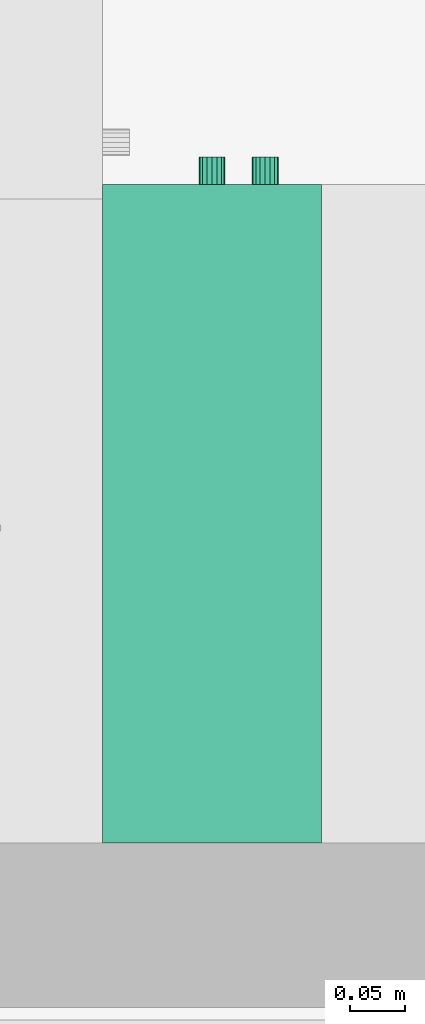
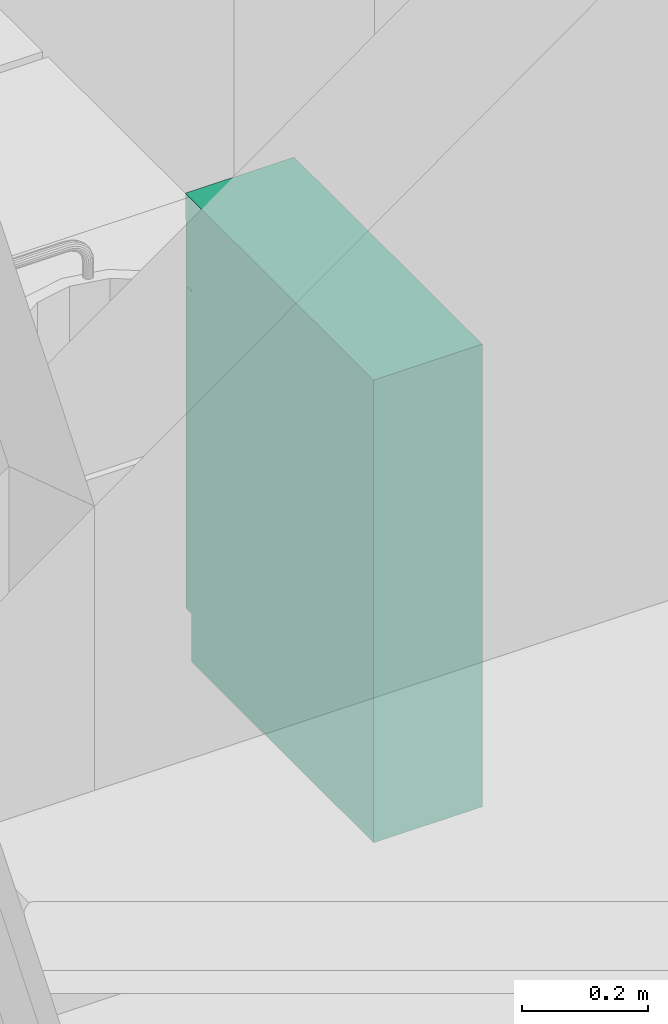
# One storey, part 45 of 172: 1 flow terminal.
"""IFC2X3 building model written with IfcOpenShell, lengths in millimetres."""

from ifc_helpers import new_model, entity, si_unit, converted_unit, money_unit, direction, frame, origin_with_axes, place, context, subcontext, project, spatial, faceted_brep, source, transform, mapped, material, material_list, type_object, element, save


model = new_model("IFC2X3")

# Units and contexts
model_context = context("Model", 3, precision=1e-05, world=origin_with_axes(), true_north=direction((0.0, 1.0)))
body_context = subcontext(model_context, "Body", "Model", "MODEL_VIEW")
ifc_project = project(units=[si_unit("LENGTHUNIT", "METRE", prefix="MILLI"), si_unit("AREAUNIT", "SQUARE_METRE"), si_unit("VOLUMEUNIT", "CUBIC_METRE"), converted_unit("PLANEANGLEUNIT", "DEGREE", entity("IfcPlaneAngleMeasure", 0.0174532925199), si_unit("PLANEANGLEUNIT", "RADIAN"), dimensions=[0, 0, 0, 0, 0, 0, 0]), si_unit("SOLIDANGLEUNIT", "STERADIAN"), money_unit("USD"), converted_unit("TIMEUNIT", "Year", entity("IfcTimeMeasure", 31556926.0), si_unit("TIMEUNIT", "SECOND"), dimensions=[0, 0, 0, 0, 0, 0, 0]), si_unit("MASSUNIT", "GRAM"), si_unit("THERMODYNAMICTEMPERATUREUNIT", "DEGREE_CELSIUS"), si_unit("LUMINOUSINTENSITYUNIT", "LUMEN")], contexts=[model_context])

# Site, building, storey
site_placement = place(None, origin_with_axes())
site = spatial("IfcSite", under=ifc_project, at=site_placement, Name="Site", CompositionType="ELEMENT")
building_placement = place(site_placement, origin_with_axes())
building = spatial("IfcBuilding", under=site, at=building_placement, Name="Building", CompositionType="ELEMENT")
storey_placement = place(building_placement, frame((0.0, 0.0, 3200.0), z_axis=(0.0, 0.0, 1.0), x_axis=(1.0, 0.0, 0.0)))
storey = spatial("IfcBuildingStorey", under=building, at=storey_placement, Name="3KORRUS", CompositionType="ELEMENT", Elevation=3200.0)

# Flow terminal
ifc_material = material(Name="Background")
ifc_material_list = material_list([ifc_material])
sanitary_terminal_type = type_object("IfcSanitaryTerminalType", Name="Cabinet Base Single Door 19", PredefinedType="SINK")
shared_shape = source(origin_with_axes(), body_context, "Body", "Brep", [
    faceted_brep([(-20.0, 20.0, 710.0), (-20.0, 20.0, 730.0), (-180.0, 20.0, 730.0), (-180.0, 20.0, 710.0), (-20.0, 580.0, 710.0), (-20.0, 580.0, 730.0), (-180.0, 580.0, 730.0), (-180.0, 580.0, 710.0)], [[[0, 1, 2, 3]], [[4, 5, 1, 0]], [[1, 5, 6, 2]], [[3, 2, 6, 7]], [[0, 3, 7, 4]], [[7, 6, 5, 4]]]),
    faceted_brep([(0.0, 20.0, 0.0), (0.0, 20.0, 90.0), (-200.0, 20.0, 90.0), (-200.0, 20.0, 0.0), (0.0, 600.0, 0.0), (0.0, 600.0, 90.0), (-200.0, 600.0, 90.0), (-200.0, 600.0, 0.0)], [[[0, 1, 2, 3]], [[4, 5, 1, 0]], [[1, 5, 6, 2]], [[3, 2, 6, 7]], [[0, 3, 7, 4]], [[7, 6, 5, 4]]]),
    faceted_brep([(0.0, 20.0, 830.0), (0.0, 20.0, 850.0), (-20.0, 20.0, 850.0), (-20.0, 20.0, 830.0), (0.0, 600.0, 830.0), (0.0, 600.0, 850.0), (-20.0, 600.0, 850.0), (-180.0, 600.0, 850.0), (-200.0, 600.0, 850.0), (-200.0, 20.0, 850.0), (-180.0, 20.0, 850.0), (-180.0, 20.0, 830.0), (-200.0, 20.0, 830.0), (-200.0, 600.0, 830.0), (-180.0, 600.0, 830.0), (-20.0, 600.0, 830.0)], [[[0, 1, 2, 3]], [[4, 5, 1, 0]], [[1, 5, 6, 7, 8, 9, 10, 2]], [[3, 2, 10, 11]], [[0, 3, 11, 12, 13, 14, 15, 4]], [[15, 6, 5, 4]], [[14, 7, 6, 15]], [[13, 8, 7, 14]], [[12, 9, 8, 13]], [[11, 10, 9, 12]]]),
    faceted_brep([(0.0, 20.0, 90.0), (0.0, 20.0, 110.0), (-20.0, 20.0, 110.0), (-20.0, 20.0, 90.0), (0.0, 600.0, 90.0), (0.0, 600.0, 110.0), (-20.0, 600.0, 110.0), (-180.0, 600.0, 110.0), (-200.0, 600.0, 110.0), (-200.0, 20.0, 110.0), (-180.0, 20.0, 110.0), (-180.0, 20.0, 90.0), (-200.0, 20.0, 90.0), (-200.0, 600.0, 90.0), (-180.0, 600.0, 90.0), (-20.0, 600.0, 90.0)], [[[0, 1, 2, 3]], [[4, 5, 1, 0]], [[1, 5, 6, 7, 8, 9, 10, 2]], [[3, 2, 10, 11]], [[0, 3, 11, 12, 13, 14, 15, 4]], [[15, 6, 5, 4]], [[14, 7, 6, 15]], [[13, 8, 7, 14]], [[12, 9, 8, 13]], [[11, 10, 9, 12]]]),
    faceted_brep([(0.0, 20.0, 110.0), (0.0, 20.0, 830.0), (-20.0, 20.0, 830.0), (-20.0, 20.0, 110.0), (0.0, 600.0, 110.0), (0.0, 600.0, 830.0), (-200.0, 600.0, 830.0), (-200.0, 20.0, 830.0), (-180.0, 20.0, 830.0), (-180.0, 580.0, 830.0), (-20.0, 580.0, 830.0), (-20.0, 580.0, 110.0), (-180.0, 580.0, 110.0), (-180.0, 20.0, 110.0), (-200.0, 20.0, 110.0), (-200.0, 600.0, 110.0)], [[[0, 1, 2, 3]], [[4, 5, 1, 0]], [[1, 5, 6, 7, 8, 9, 10, 2]], [[3, 2, 10, 11]], [[0, 3, 11, 12, 13, 14, 15, 4]], [[15, 6, 5, 4]], [[14, 7, 6, 15]], [[13, 8, 7, 14]], [[12, 9, 8, 13]], [[11, 10, 9, 12]]]),
    faceted_brep([(-180.0, 20.0, 385.0), (-180.0, 20.0, 405.0), (-180.0, 580.0, 405.0), (-180.0, 580.0, 385.0), (-20.0, 20.0, 385.0), (-20.0, 20.0, 405.0), (-20.0, 580.0, 405.0), (-20.0, 580.0, 385.0)], [[[0, 1, 2, 3]], [[4, 5, 1, 0]], [[1, 5, 6, 2]], [[3, 2, 6, 7]], [[0, 3, 7, 4]], [[7, 6, 5, 4]]]),
    faceted_brep([(0.0, 0.0, 850.0), (0.0, 0.0, 900.0), (-200.0, 0.0, 900.0), (-200.0, 0.0, 850.0), (0.0, 600.0, 850.0), (0.0, 600.0, 900.0), (-200.0, 600.0, 900.0), (-200.0, 600.0, 850.0)], [[[0, 1, 2, 3]], [[4, 5, 1, 0]], [[1, 5, 6, 2]], [[3, 2, 6, 7]], [[0, 3, 7, 4]], [[7, 6, 5, 4]]]),
    faceted_brep([(-1.5, 20.0, 721.5), (-1.5, 0.0, 721.5), (-198.5, 0.0, 721.5), (-198.5, 20.0, 721.5), (-1.5, 20.0, 848.5), (-1.5, 0.0, 848.5), (-198.5, 0.0, 848.5), (-198.5, 20.0, 848.5)], [[[0, 1, 2, 3]], [[4, 5, 1, 0]], [[1, 5, 6, 2]], [[3, 2, 6, 7]], [[0, 3, 7, 4]], [[7, 6, 5, 4]]]),
    faceted_brep([(-95.408, 0.0, 773.913), (-100.0, 0.0, 773.0), (-104.592, 0.0, 773.913), (-108.485, 0.0, 776.515), (-111.087, 0.0, 780.408), (-112.0, 0.0, 785.0), (-111.087, 0.0, 789.592), (-108.485, 0.0, 793.485), (-104.592, 0.0, 796.087), (-100.0, 0.0, 797.0), (-95.408, 0.0, 796.087), (-91.515, 0.0, 793.485), (-88.913, 0.0, 789.592), (-88.0, 0.0, 785.0), (-88.913, 0.0, 780.408), (-91.515, 0.0, 776.515), (-95.408, -25.0, 773.913), (-100.0, -25.0, 773.0), (-104.592, -25.0, 773.913), (-108.485, -25.0, 776.515), (-111.087, -25.0, 780.408), (-112.0, -25.0, 785.0), (-111.087, -25.0, 789.592), (-108.485, -25.0, 793.485), (-104.592, -25.0, 796.087), (-100.0, -25.0, 797.0), (-95.408, -25.0, 796.087), (-91.515, -25.0, 793.485), (-88.913, -25.0, 789.592), (-88.0, -25.0, 785.0), (-88.913, -25.0, 780.408), (-91.515, -25.0, 776.515)], [[[0, 1, 2, 3, 4, 5, 6, 7, 8, 9, 10, 11, 12, 13, 14, 15]], [[0, 16, 17, 1]], [[1, 17, 18, 2]], [[2, 18, 19, 3]], [[3, 19, 20, 4]], [[4, 20, 21, 5]], [[5, 21, 22, 6]], [[6, 22, 23, 7]], [[7, 23, 24, 8]], [[8, 24, 25, 9]], [[9, 25, 26, 10]], [[10, 26, 27, 11]], [[11, 27, 28, 12]], [[12, 28, 29, 13]], [[13, 29, 30, 14]], [[14, 30, 31, 15]], [[15, 31, 16, 0]], [[16, 31, 30, 29, 28, 27, 26, 25, 24, 23, 22, 21, 20, 19, 18, 17]]]),
    faceted_brep([(-1.5, 20.0, 91.5), (-1.5, 0.0, 91.5), (-198.5, 0.0, 91.5), (-198.5, 20.0, 91.5), (-1.5, 20.0, 718.5), (-1.5, 0.0, 718.5), (-198.5, 0.0, 718.5), (-198.5, 20.0, 718.5)], [[[0, 1, 2, 3]], [[4, 5, 1, 0]], [[1, 5, 6, 2]], [[3, 2, 6, 7]], [[0, 3, 7, 4]], [[7, 6, 5, 4]]]),
    faceted_brep([(-159.587, 0.0, 636.908), (-160.5, 0.0, 641.5), (-159.587, 0.0, 646.092), (-156.985, 0.0, 649.985), (-153.092, 0.0, 652.587), (-148.5, 0.0, 653.5), (-143.908, 0.0, 652.587), (-140.015, 0.0, 649.985), (-137.413, 0.0, 646.092), (-136.5, 0.0, 641.5), (-137.413, 0.0, 636.908), (-140.015, 0.0, 633.015), (-143.908, 0.0, 630.413), (-148.5, 0.0, 629.5), (-153.092, 0.0, 630.413), (-156.985, 0.0, 633.015), (-159.587, -25.0, 636.908), (-160.5, -25.0, 641.5), (-159.587, -25.0, 646.092), (-156.985, -25.0, 649.985), (-153.092, -25.0, 652.587), (-148.5, -25.0, 653.5), (-143.908, -25.0, 652.587), (-140.015, -25.0, 649.985), (-137.413, -25.0, 646.092), (-136.5, -25.0, 641.5), (-137.413, -25.0, 636.908), (-140.015, -25.0, 633.015), (-143.908, -25.0, 630.413), (-148.5, -25.0, 629.5), (-153.092, -25.0, 630.413), (-156.985, -25.0, 633.015)], [[[0, 1, 2, 3, 4, 5, 6, 7, 8, 9, 10, 11, 12, 13, 14, 15]], [[0, 16, 17, 1]], [[1, 17, 18, 2]], [[2, 18, 19, 3]], [[3, 19, 20, 4]], [[4, 20, 21, 5]], [[5, 21, 22, 6]], [[6, 22, 23, 7]], [[7, 23, 24, 8]], [[8, 24, 25, 9]], [[9, 25, 26, 10]], [[10, 26, 27, 11]], [[11, 27, 28, 12]], [[12, 28, 29, 13]], [[13, 29, 30, 14]], [[14, 30, 31, 15]], [[15, 31, 16, 0]], [[16, 31, 30, 29, 28, 27, 26, 25, 24, 23, 22, 21, 20, 19, 18, 17]]]),
])
flow_terminal_placement = place(storey_placement, frame((-53008.4921105, -15138.0262806, 0.0), z_axis=(0.0, 0.0, 1.0), x_axis=(-1.0, 0.0, 0.0)))
element("IfcFlowTerminal", 1, at=flow_terminal_placement, inside=storey, type_object=sanitary_terminal_type, material=ifc_material_list, Name="FU - 007", context=body_context, shape_type="MappedRepresentation", body=[
    mapped(shared_shape, transform((0.0, 0.0, 0.0))),
])

save(model, "model.ifc")
